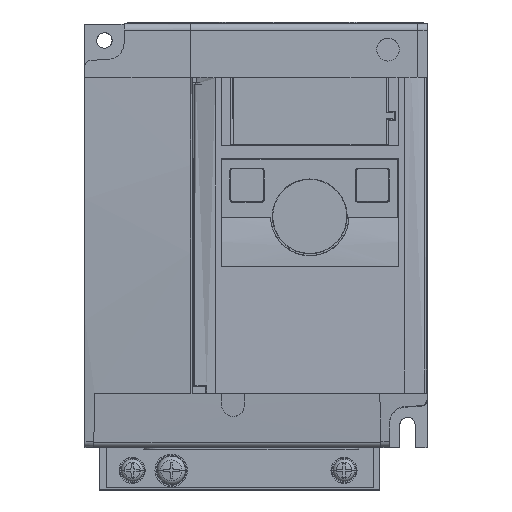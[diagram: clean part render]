
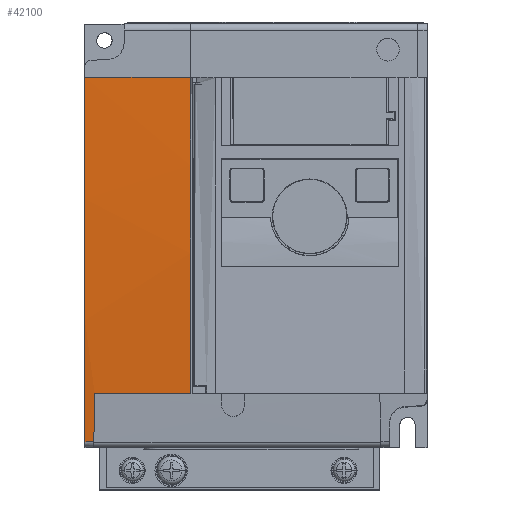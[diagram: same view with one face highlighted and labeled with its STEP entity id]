
A CAD part, top view. The second image highlights one B-rep face of the part: STEP entity #42100.
In plain terms, the highlighted cylindrical face has radius 943 mm (diameter 1886 mm), a partial arc.
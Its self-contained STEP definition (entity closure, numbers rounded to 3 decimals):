
#5438=CARTESIAN_POINT('',(-49.5,114.598,113.5));
#5439=CARTESIAN_POINT('',(-49.586,114.089,118.417));
#5440=CARTESIAN_POINT('',(-49.672,113.542,123.329));
#5441=CARTESIAN_POINT('',(-49.757,112.957,128.237));
#5763=CARTESIAN_POINT('',(-52.5,-823.4,16.5));
#5764=DIRECTION('',(-1.,0.,0.));
#5765=DIRECTION('',(0.,0.993,0.118));
#5766=AXIS2_PLACEMENT_3D('',#5763,#5764,#5765);
#12606=DIRECTION('',(-1.,0.,0.));
#12607=VECTOR('',#12606,32.289);
#12608=CARTESIAN_POINT('',(-20.211,119.6,16.5));
#12609=LINE('',#12608,#12607);
#12610=CARTESIAN_POINT('',(-20.124,114.598,113.5));
#12611=CARTESIAN_POINT('',(-20.182,117.933,
81.253));
#12612=CARTESIAN_POINT('',(-20.211,119.6,48.919));
#12613=CARTESIAN_POINT('',(-20.211,119.6,16.5));
#12615=DIRECTION('',(1.,0.,0.));
#12616=VECTOR('',#12615,29.376);
#12617=CARTESIAN_POINT('',(-49.5,114.598,113.5));
#12618=LINE('',#12617,#12616);
#12619=DIRECTION('',(-1.,0.,0.));
#12620=VECTOR('',#12619,2.743);
#12621=CARTESIAN_POINT('',(-49.757,112.957,
128.237));
#12622=LINE('',#12621,#12620);
#16708=CARTESIAN_POINT('',(-52.5,112.957,128.237));
#16709=VERTEX_POINT('',#16708);
#16710=CARTESIAN_POINT('',(-52.5,119.6,16.5));
#16711=VERTEX_POINT('',#16710);
#17368=CARTESIAN_POINT('',(-20.124,114.598,113.5));
#17369=VERTEX_POINT('',#17368);
#17370=CARTESIAN_POINT('',(-49.5,114.598,113.5));
#17371=VERTEX_POINT('',#17370);
#17530=VERTEX_POINT('',#5441);
#18019=CARTESIAN_POINT('',(-20.211,119.6,16.5));
#18020=VERTEX_POINT('',#18019);
#42086=CARTESIAN_POINT('',(-52.5,-823.4,16.5));
#42087=DIRECTION('',(-1.,0.,0.));
#42088=DIRECTION('',(0.,0.,1.));
#42089=AXIS2_PLACEMENT_3D('',#42086,#42087,#42088);
#42090=CYLINDRICAL_SURFACE('',#42089,943.);
#42091=ORIENTED_EDGE('',*,*,#35478,.F.);
#42092=ORIENTED_EDGE('',*,*,#35516,.F.);
#42093=ORIENTED_EDGE('',*,*,#25982,.F.);
#42094=ORIENTED_EDGE('',*,*,#28824,.T.);
#42096=ORIENTED_EDGE('',*,*,#42095,.T.);
#42097=ORIENTED_EDGE('',*,*,#28902,.T.);
#42098=EDGE_LOOP('',(#42091,#42092,#42093,#42094,#42096,#42097));
#42099=FACE_OUTER_BOUND('',#42098,.F.);
#5442=B_SPLINE_CURVE_WITH_KNOTS('',3,(#5438,#5439,#5440,#5441),.UNSPECIFIED.,
.F.,.F.,(4,4),(0.,1.),.UNSPECIFIED.);
#5767=CIRCLE('',#5766,943.);
#12614=B_SPLINE_CURVE_WITH_KNOTS('',3,(#12610,#12611,#12612,#12613),
.UNSPECIFIED.,.F.,.F.,(4,4),(0.,1.),.UNSPECIFIED.);
#25982=EDGE_CURVE('',#17371,#17369,#12618,.T.);
#28824=EDGE_CURVE('',#17371,#17530,#5442,.T.);
#28902=EDGE_CURVE('',#16709,#16711,#5767,.T.);
#35478=EDGE_CURVE('',#18020,#16711,#12609,.T.);
#35516=EDGE_CURVE('',#17369,#18020,#12614,.T.);
#42095=EDGE_CURVE('',#17530,#16709,#12622,.T.);
#42100=ADVANCED_FACE('',(#42099),#42090,.T.);
